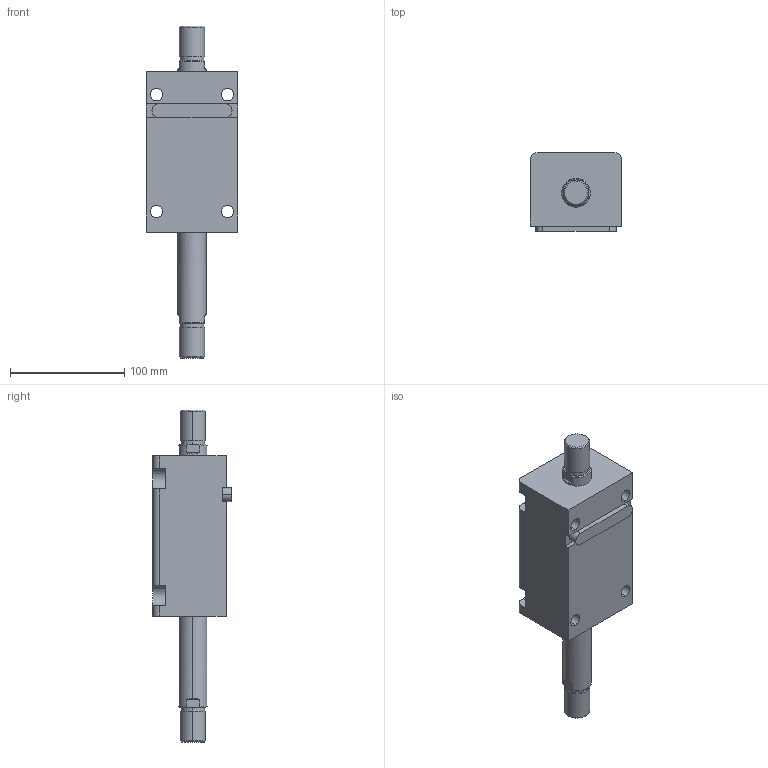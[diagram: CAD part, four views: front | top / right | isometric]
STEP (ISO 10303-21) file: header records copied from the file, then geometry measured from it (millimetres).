
FILE_DESCRIPTION (( 'STEP AP203' ), '1' );
FILE_NAME ('HTB-LW40-75W.STEP', '2019-10-09T07:58:13', ( '微软用户' ), ( '微软中国' ), 'SwSTEP 2.0', 'SolidWorks 2012', '' );
FILE_SCHEMA (( 'CONFIG_CONTROL_DESIGN' ));
Length unit declared in the file: millimetre
Products named in the file (4): HTB-LW40-75W; HTB-LA40-瑩; HTB-LW40-70W活塞杆; HTB-LW40-70掛极
Assembly tree (3 placements, depth 2):
  HTB-LW40-75W
    HTB-LW40-70掛极
    HTB-LW40-70W活塞杆
    HTB-LA40-瑩
Bounding box: 80 x 68.5 x 290 mm (x, y, z)
Volume: 695809 mm3; surface area: 102842 mm2
Topology: 3 solids, 3 shells, 113 faces, 273 edges, 178 vertices
Faces by surface type: plane 48, cylinder 45, cone 12, torus 8
Entity records: 3779 total; most frequent: CARTESIAN_POINT 622, DIRECTION 617, ORIENTED_EDGE 546, EDGE_CURVE 273, AXIS2_PLACEMENT_3D 241, VERTEX_POINT 178, EDGE_LOOP 135, LINE 135
